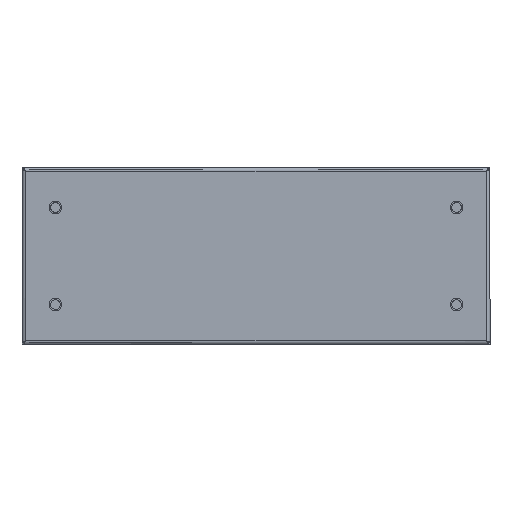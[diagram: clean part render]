
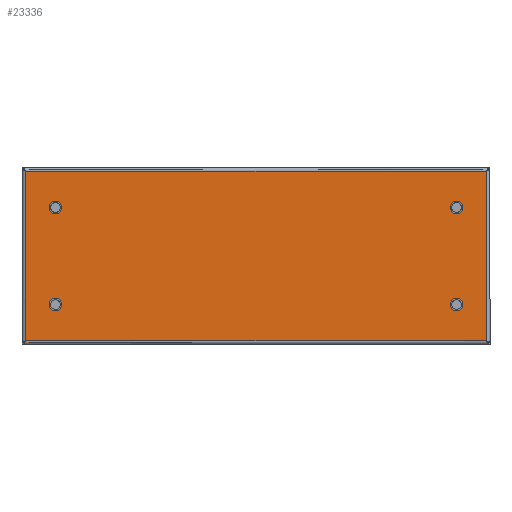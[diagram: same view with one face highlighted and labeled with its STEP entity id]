
A CAD part, front view. The second image highlights one B-rep face of the part: STEP entity #23336.
In plain terms, the highlighted planar face has unit normal (0, -1, 0) as drawn and (0, 0, 1) by its records, which use the part's own axes.
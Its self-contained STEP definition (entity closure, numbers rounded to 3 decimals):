
#22676=CARTESIAN_POINT(' ',(109.5,-26.5,0.));
#22681=DIRECTION(' ',(0.,0.,-1.));
#22686=DIRECTION(' ',(1.,0.,0.));
#22691=AXIS2_PLACEMENT_3D(' ',#22676,#22681,#22686);
#22696=CIRCLE('',#22691,3.5);
#22701=CARTESIAN_POINT(' ',(113.,-26.5,0.));
#22702=VERTEX_POINT(' ',#22701);
#22706=CARTESIAN_POINT(' ',(106.,-26.5,0.));
#22707=VERTEX_POINT(' ',#22706);
#22711=EDGE_CURVE(' ',#22702,#22707,#22696,.T.);
#22841=DIRECTION(' ',(-0.,-0.,1.));
#22846=CARTESIAN_POINT(' ',(125.65,-46.4,0.));
#22851=DIRECTION(' ',(0.,1.,0.));
#22856=AXIS2_PLACEMENT_3D(' ',#22846,#22841,#22851);
#22861=PLANE('NONE',#22856);
#22866=CARTESIAN_POINT(' ',(125.65,-46.4,0.));
#22871=DIRECTION(' ',(0.,1.,0.));
#22876=VECTOR(' ',#22871,1.);
#22881=LINE('',#22866,#22876);
#22886=CARTESIAN_POINT(' ',(125.65,-46.4,0.));
#22887=VERTEX_POINT(' ',#22886);
#22891=CARTESIAN_POINT(' ',(125.65,46.4,0.));
#22892=VERTEX_POINT(' ',#22891);
#22896=EDGE_CURVE(' ',#22887,#22892,#22881,.T.);
#22901=ORIENTED_EDGE(' ',*,*,#22896,.T.);
#22906=CARTESIAN_POINT(' ',(125.65,46.4,0.));
#22911=DIRECTION(' ',(-1.,0.,0.));
#22916=VECTOR(' ',#22911,1.);
#22921=LINE('',#22906,#22916);
#22926=CARTESIAN_POINT(' ',(-125.65,46.4,0.));
#22927=VERTEX_POINT(' ',#22926);
#22931=EDGE_CURVE(' ',#22892,#22927,#22921,.T.);
#22936=ORIENTED_EDGE(' ',*,*,#22931,.T.);
#22941=CARTESIAN_POINT(' ',(-125.65,46.4,0.));
#22946=DIRECTION(' ',(0.,-1.,0.));
#22951=VECTOR(' ',#22946,1.);
#22956=LINE('',#22941,#22951);
#22961=CARTESIAN_POINT(' ',(-125.65,-46.4,0.));
#22962=VERTEX_POINT(' ',#22961);
#22966=EDGE_CURVE(' ',#22927,#22962,#22956,.T.);
#22971=ORIENTED_EDGE(' ',*,*,#22966,.T.);
#22976=CARTESIAN_POINT(' ',(-125.65,-46.4,0.));
#22981=DIRECTION(' ',(1.,0.,0.));
#22986=VECTOR(' ',#22981,1.);
#22991=LINE('',#22976,#22986);
#22996=EDGE_CURVE(' ',#22962,#22887,#22991,.T.);
#23001=ORIENTED_EDGE(' ',*,*,#22996,.T.);
#23006=EDGE_LOOP(' ',(#22901,#22936,#22971,#23001));
#23011=FACE_OUTER_BOUND(' ',#23006,.T.);
#23016=CARTESIAN_POINT(' ',(109.5,-26.5,0.));
#23021=DIRECTION(' ',(0.,-0.,-1.));
#23026=DIRECTION(' ',(-1.,0.,0.));
#23031=AXIS2_PLACEMENT_3D(' ',#23016,#23021,#23026);
#23036=CIRCLE('',#23031,3.5);
#23041=EDGE_CURVE(' ',#22707,#22702,#23036,.T.);
#23046=ORIENTED_EDGE(' ',*,*,#23041,.T.);
#23051=ORIENTED_EDGE(' ',*,*,#22711,.T.);
#23056=EDGE_LOOP(' ',(#23046,#23051));
#23061=FACE_BOUND(' ',#23056,.T.);
#23066=CARTESIAN_POINT(' ',(-109.5,-26.5,0.));
#23071=DIRECTION(' ',(0.,-0.,-1.));
#23076=DIRECTION(' ',(-1.,0.,0.));
#23081=AXIS2_PLACEMENT_3D(' ',#23066,#23071,#23076);
#23086=CIRCLE('',#23081,3.5);
#23091=CARTESIAN_POINT(' ',(-113.,-26.5,0.));
#23092=VERTEX_POINT(' ',#23091);
#23096=CARTESIAN_POINT(' ',(-106.,-26.5,0.));
#23097=VERTEX_POINT(' ',#23096);
#23101=EDGE_CURVE(' ',#23092,#23097,#23086,.T.);
#23106=ORIENTED_EDGE(' ',*,*,#23101,.T.);
#23111=CARTESIAN_POINT(' ',(-109.5,-26.5,0.));
#23116=DIRECTION(' ',(0.,0.,-1.));
#23121=DIRECTION(' ',(1.,0.,0.));
#23126=AXIS2_PLACEMENT_3D(' ',#23111,#23116,#23121);
#23131=CIRCLE('',#23126,3.5);
#23136=EDGE_CURVE(' ',#23097,#23092,#23131,.T.);
#23141=ORIENTED_EDGE(' ',*,*,#23136,.T.);
#23146=EDGE_LOOP(' ',(#23106,#23141));
#23151=FACE_BOUND(' ',#23146,.T.);
#23156=CARTESIAN_POINT(' ',(109.5,26.5,0.));
#23161=DIRECTION(' ',(0.,-0.,-1.));
#23166=DIRECTION(' ',(-1.,0.,0.));
#23171=AXIS2_PLACEMENT_3D(' ',#23156,#23161,#23166);
#23176=CIRCLE('',#23171,3.5);
#23181=CARTESIAN_POINT(' ',(106.,26.5,0.));
#23182=VERTEX_POINT(' ',#23181);
#23186=CARTESIAN_POINT(' ',(113.,26.5,0.));
#23187=VERTEX_POINT(' ',#23186);
#23191=EDGE_CURVE(' ',#23182,#23187,#23176,.T.);
#23196=ORIENTED_EDGE(' ',*,*,#23191,.T.);
#23201=CARTESIAN_POINT(' ',(109.5,26.5,0.));
#23206=DIRECTION(' ',(0.,0.,-1.));
#23211=DIRECTION(' ',(1.,0.,0.));
#23216=AXIS2_PLACEMENT_3D(' ',#23201,#23206,#23211);
#23221=CIRCLE('',#23216,3.5);
#23226=EDGE_CURVE(' ',#23187,#23182,#23221,.T.);
#23231=ORIENTED_EDGE(' ',*,*,#23226,.T.);
#23236=EDGE_LOOP(' ',(#23196,#23231));
#23241=FACE_BOUND(' ',#23236,.T.);
#23246=CARTESIAN_POINT(' ',(-109.5,26.5,0.));
#23251=DIRECTION(' ',(0.,-0.,-1.));
#23256=DIRECTION(' ',(-1.,0.,0.));
#23261=AXIS2_PLACEMENT_3D(' ',#23246,#23251,#23256);
#23266=CIRCLE('',#23261,3.5);
#23271=CARTESIAN_POINT(' ',(-113.,26.5,0.));
#23272=VERTEX_POINT(' ',#23271);
#23276=CARTESIAN_POINT(' ',(-106.,26.5,0.));
#23277=VERTEX_POINT(' ',#23276);
#23281=EDGE_CURVE(' ',#23272,#23277,#23266,.T.);
#23286=ORIENTED_EDGE(' ',*,*,#23281,.T.);
#23291=CARTESIAN_POINT(' ',(-109.5,26.5,0.));
#23296=DIRECTION(' ',(0.,0.,-1.));
#23301=DIRECTION(' ',(1.,0.,0.));
#23306=AXIS2_PLACEMENT_3D(' ',#23291,#23296,#23301);
#23311=CIRCLE('',#23306,3.5);
#23316=EDGE_CURVE(' ',#23277,#23272,#23311,.T.);
#23321=ORIENTED_EDGE(' ',*,*,#23316,.T.);
#23326=EDGE_LOOP(' ',(#23286,#23321));
#23331=FACE_BOUND(' ',#23326,.T.);
#23336=ADVANCED_FACE('NONE',(#23011,#23061,#23151,#23241,#23331),#22861,.T.);
